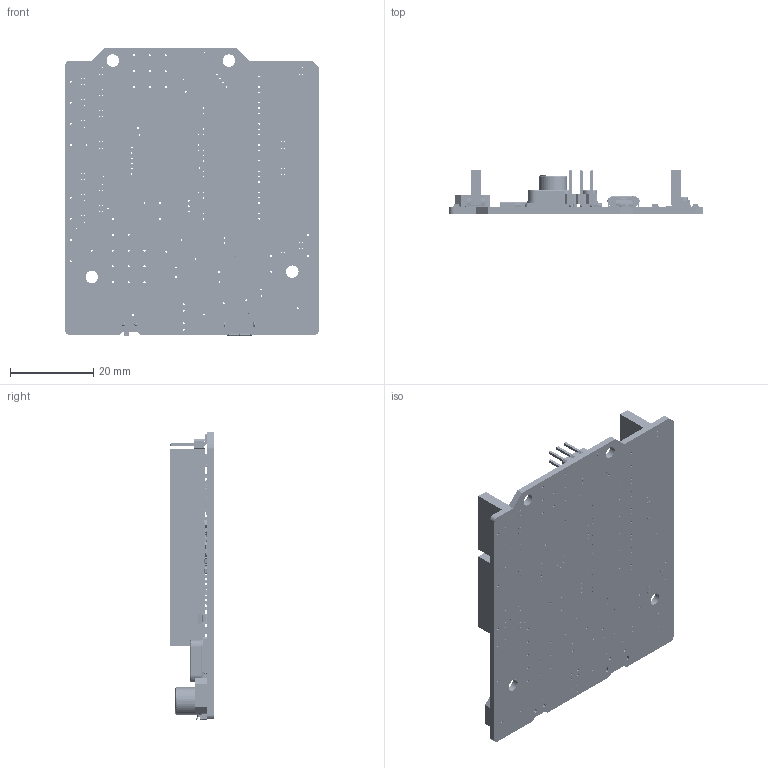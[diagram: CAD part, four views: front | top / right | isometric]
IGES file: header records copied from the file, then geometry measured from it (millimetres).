
Start section: SolidWorks IGES file using analytic representation for surfaces
Global section: file name: C:\Users\DIANMIAO\Desktop\MAKER-UNO\STEP\MAKER-UNO.IGS; native system: SolidWorks 2015; preprocessor: SolidWorks 2015; author: DIANMIAO; date: 191011.145820; units: millimetre
Bounding box: 60.96 x 10.57 x 69.35 mm (x, y, z)
Surface area: 15115 mm2 (no closed solid volume)
Topology: 0 solids, 0 shells, 5559 faces, 42482 edges, 42479 vertices
Faces by surface type: bspline 4102, revolution 1457
